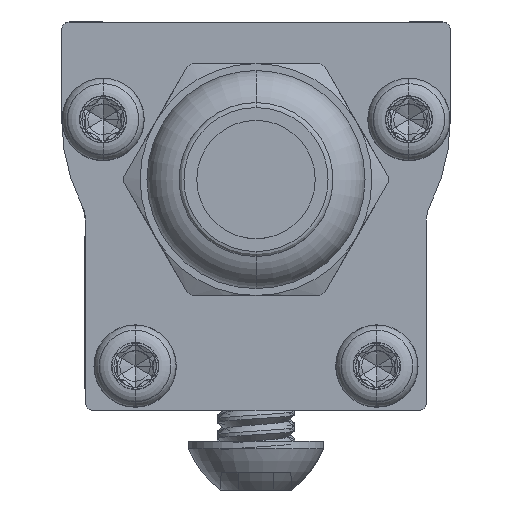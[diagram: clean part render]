
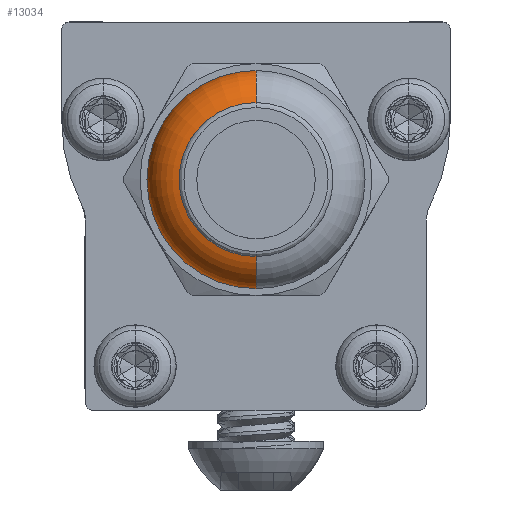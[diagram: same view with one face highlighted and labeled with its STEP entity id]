
A CAD part, left-side view. The second image highlights one B-rep face of the part: STEP entity #13034.
In plain terms, the highlighted toroidal (fillet/blend) face has major radius 3.518 mm and minor radius 2.095 mm.
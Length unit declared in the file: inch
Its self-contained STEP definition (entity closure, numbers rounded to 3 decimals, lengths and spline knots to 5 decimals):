
#456 = CARTESIAN_POINT ( 'NONE',  ( -0.395, 0., 0. ) ) ;
#1480 = VERTEX_POINT ( 'NONE', #10282 ) ;
#1768 = AXIS2_PLACEMENT_3D ( 'NONE', #7712, #21877, #7616 ) ;
#1911 = CARTESIAN_POINT ( 'NONE',  ( -0.31437, 0., 0.13852 ) ) ;
#2542 = EDGE_LOOP ( 'NONE', ( #16230, #20917, #28443, #8435 ) ) ;
#2841 = EDGE_CURVE ( 'NONE', #14063, #1480, #19307, .T. ) ;
#2980 = EDGE_CURVE ( 'NONE', #14063, #26536, #24813, .T. ) ;
#4001 = AXIS2_PLACEMENT_3D ( 'NONE', #12830, #24835, #15629 ) ;
#4087 = EDGE_CURVE ( 'NONE', #13109, #26536, #14386, .T. ) ;
#7234 = AXIS2_PLACEMENT_3D ( 'NONE', #456, #26280, #14580 ) ;
#7313 = DIRECTION ( 'NONE',  ( 1., 0., 0. ) ) ;
#7616 = DIRECTION ( 'NONE',  ( 0., 0., 1. ) ) ;
#7712 = CARTESIAN_POINT ( 'NONE',  ( -0.31437, 0., -0.13852 ) ) ;
#8435 = ORIENTED_EDGE ( 'NONE', *, *, #10446, .F. ) ;
#10282 = CARTESIAN_POINT ( 'NONE',  ( -0.31437, 0., 0.22102 ) ) ;
#10446 = EDGE_CURVE ( 'NONE', #1480, #13109, #19016, .T. ) ;
#12830 = CARTESIAN_POINT ( 'NONE',  ( -0.31437, 0., 0. ) ) ;
#13034 = ADVANCED_FACE ( 'NONE', ( #19964 ), #13668, .T. ) ;
#13109 = VERTEX_POINT ( 'NONE', #22432 ) ;
#13668 = TOROIDAL_SURFACE ( 'NONE', #4001, 0.13852, 0.0825 ) ;
#14063 = VERTEX_POINT ( 'NONE', #30010 ) ;
#14386 = CIRCLE ( 'NONE', #7234, 0.156 ) ;
#14580 = DIRECTION ( 'NONE',  ( 0., 0., 1. ) ) ;
#15629 = DIRECTION ( 'NONE',  ( 0., 0., 1. ) ) ;
#16230 = ORIENTED_EDGE ( 'NONE', *, *, #2841, .F. ) ;
#16315 = CARTESIAN_POINT ( 'NONE',  ( -0.395, 0., -0.156 ) ) ;
#19016 = CIRCLE ( 'NONE', #22709, 0.0825 ) ;
#19307 = CIRCLE ( 'NONE', #30551, 0.22102 ) ;
#19964 = FACE_OUTER_BOUND ( 'NONE', #2542, .T. ) ;
#20917 = ORIENTED_EDGE ( 'NONE', *, *, #2980, .T. ) ;
#20999 = DIRECTION ( 'NONE',  ( 0., 0., -1. ) ) ;
#21877 = DIRECTION ( 'NONE',  ( 0., 1., 0. ) ) ;
#22432 = CARTESIAN_POINT ( 'NONE',  ( -0.395, 0., 0.156 ) ) ;
#22709 = AXIS2_PLACEMENT_3D ( 'NONE', #1911, #25982, #20999 ) ;
#24813 = CIRCLE ( 'NONE', #1768, 0.0825 ) ;
#24835 = DIRECTION ( 'NONE',  ( -1., 0., 0. ) ) ;
#25982 = DIRECTION ( 'NONE',  ( 0., -1., 0. ) ) ;
#26249 = CARTESIAN_POINT ( 'NONE',  ( -0.31437, 0., 0. ) ) ;
#26280 = DIRECTION ( 'NONE',  ( -1., 0., 0. ) ) ;
#26348 = DIRECTION ( 'NONE',  ( 0., 0., 1. ) ) ;
#26536 = VERTEX_POINT ( 'NONE', #16315 ) ;
#28443 = ORIENTED_EDGE ( 'NONE', *, *, #4087, .F. ) ;
#30010 = CARTESIAN_POINT ( 'NONE',  ( -0.31437, 0., -0.22102 ) ) ;
#30551 = AXIS2_PLACEMENT_3D ( 'NONE', #26249, #7313, #26348 ) ;
